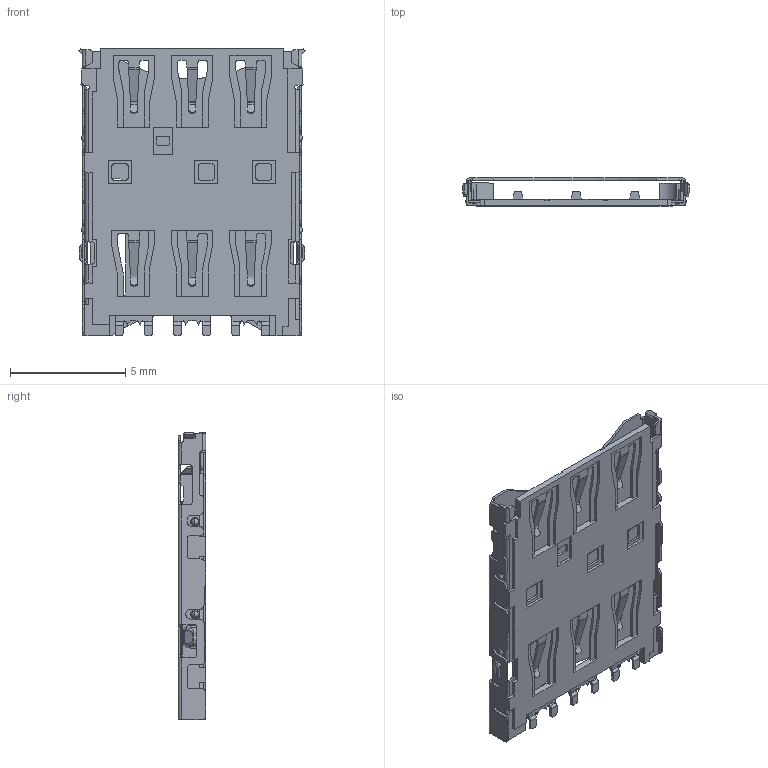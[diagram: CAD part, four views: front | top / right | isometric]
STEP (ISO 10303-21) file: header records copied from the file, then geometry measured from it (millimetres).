
FILE_DESCRIPTION (( 'STEP AP203' ), '1' );
FILE_NAME ('¹s¥ó2^XY Molding 1pcs.STEP', '2022-03-11T02:15:58', ( '' ), ( '' ), 'SwSTEP 2.0', 'SolidWorks 2022', '' );
FILE_SCHEMA (( 'CONFIG_CONTROL_DESIGN' ));
Length unit declared in the file: millimetre
Products named in the file (1): 零件2^XY Molding 1pcs
Bounding box: 9.84 x 1.2 x 12.5 mm (x, y, z)
Volume: 36.4 mm3; surface area: 512 mm2
Topology: 2 solids, 6 shells, 1157 faces, 3244 edges, 2113 vertices
Faces by surface type: plane 687, cylinder 376, bspline 70, sphere 16, torus 8
Entity records: 38056 total; most frequent: CARTESIAN_POINT 8207, ORIENTED_EDGE 6488, DIRECTION 5907, EDGE_CURVE 3244, LINE 2249, VECTOR 2249, VERTEX_POINT 2113, AXIS2_PLACEMENT_3D 1829
